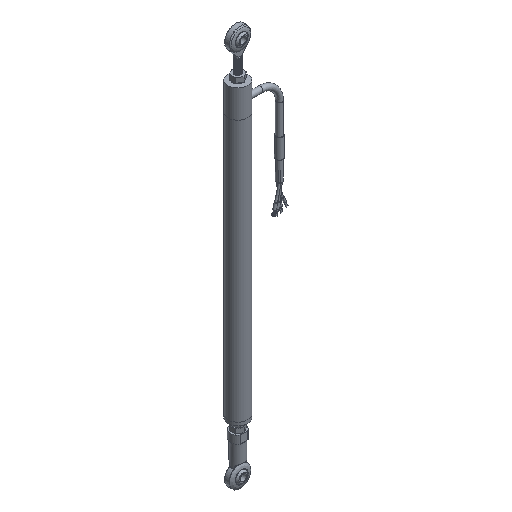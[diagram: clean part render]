
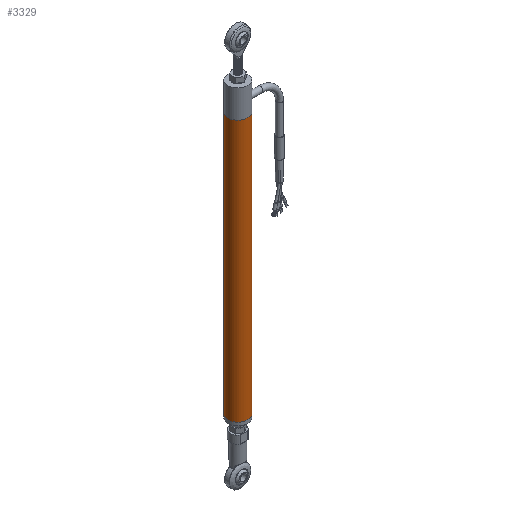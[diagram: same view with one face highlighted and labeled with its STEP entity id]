
A CAD part, isometric view. The second image highlights one B-rep face of the part: STEP entity #3329.
In plain terms, the highlighted cylindrical face has radius 6.35 mm (diameter 12.7 mm), a full revolution.
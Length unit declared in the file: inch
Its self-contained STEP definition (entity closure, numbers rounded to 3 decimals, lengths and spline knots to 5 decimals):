
#248=LINE('',#8165,#453);
#453=VECTOR('',#4234,0.25);
#633=CYLINDRICAL_SURFACE('',#3719,0.25);
#744=FACE_OUTER_BOUND('',#956,.T.);
#956=EDGE_LOOP('',(#2470,#2471,#2472,#2473,#2474));
#1140=CIRCLE('',#3711,0.25);
#1142=CIRCLE('',#3717,0.25);
#1143=CIRCLE('',#3718,0.25);
#1463=VERTEX_POINT('',#8108);
#1468=VERTEX_POINT('',#8159);
#1469=VERTEX_POINT('',#8161);
#1826=EDGE_CURVE('',#1463,#1463,#1140,.T.);
#1833=EDGE_CURVE('',#1469,#1468,#1142,.T.);
#1834=EDGE_CURVE('',#1468,#1469,#1143,.T.);
#1835=EDGE_CURVE('',#1463,#1469,#248,.T.);
#2470=ORIENTED_EDGE('',*,*,#1826,.F.);
#2471=ORIENTED_EDGE('',*,*,#1835,.T.);
#2472=ORIENTED_EDGE('',*,*,#1833,.T.);
#2473=ORIENTED_EDGE('',*,*,#1834,.T.);
#2474=ORIENTED_EDGE('',*,*,#1835,.F.);
#3329=ADVANCED_FACE('',(#744),#633,.T.);
#3711=AXIS2_PLACEMENT_3D('',#8110,#4214,#4215);
#3717=AXIS2_PLACEMENT_3D('',#8162,#4228,#4229);
#3718=AXIS2_PLACEMENT_3D('',#8163,#4230,#4231);
#3719=AXIS2_PLACEMENT_3D('',#8164,#4232,#4233);
#4214=DIRECTION('center_axis',(0.,0.,-1.));
#4215=DIRECTION('ref_axis',(-1.,0.,0.));
#4228=DIRECTION('center_axis',(0.,0.,-1.));
#4229=DIRECTION('ref_axis',(-1.,0.,0.));
#4230=DIRECTION('center_axis',(0.,0.,-1.));
#4231=DIRECTION('ref_axis',(-1.,0.,0.));
#4232=DIRECTION('center_axis',(0.,0.,-1.));
#4233=DIRECTION('ref_axis',(-1.,0.,0.));
#4234=DIRECTION('',(0.,0.,1.));
#8108=CARTESIAN_POINT('',(0.25,0.,-7.27559));
#8110=CARTESIAN_POINT('Origin',(0.,0.,-7.27559));
#8159=CARTESIAN_POINT('',(-0.25,0.,-0.7));
#8161=CARTESIAN_POINT('',(0.25,0.,-0.7));
#8162=CARTESIAN_POINT('Origin',(0.,0.,-0.7));
#8163=CARTESIAN_POINT('Origin',(0.,0.,-0.7));
#8164=CARTESIAN_POINT('Origin',(0.,0.,0.));
#8165=CARTESIAN_POINT('',(0.25,0.,0.));
